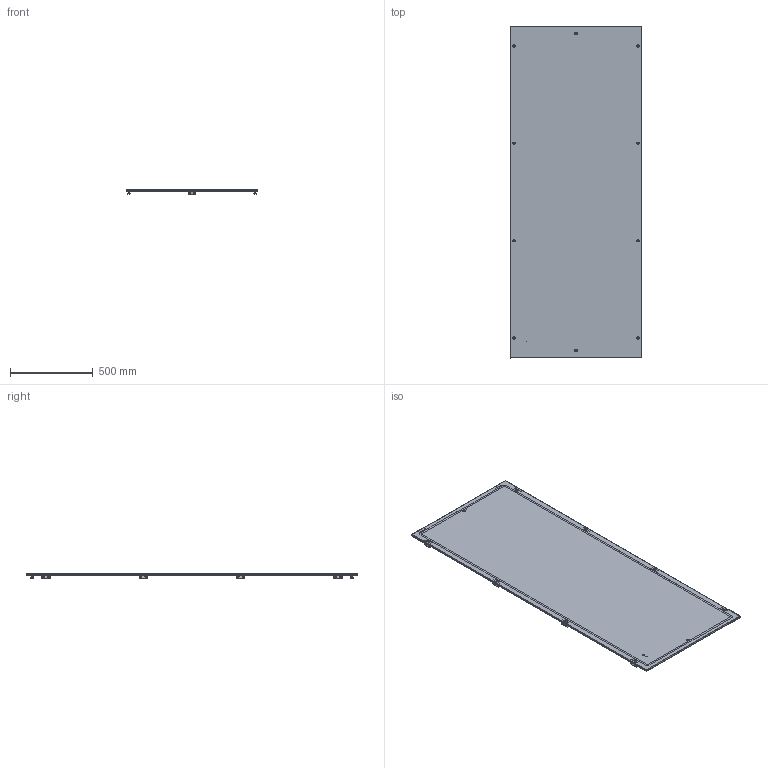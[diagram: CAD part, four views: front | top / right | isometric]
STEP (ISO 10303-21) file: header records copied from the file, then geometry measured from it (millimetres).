
FILE_DESCRIPTION (( 'STEP AP214' ), '1' );
FILE_NAME ('YKM40D-FO-FP-200-080-54 Ïàíåëü çàäíÿÿ 2000õ800 ìì IP54.STEP', '2025-08-21T13:04:08', ( '' ), ( '' ), 'SwSTEP 2.0', 'SolidWorks 2023', '' );
FILE_SCHEMA (( 'AUTOMOTIVE_DESIGN' ));
Length unit declared in the file: millimetre
Products named in the file (1): YKM40D-FO-FP-200-080-54 Панель задняя 2000х800 мм IP54
Bounding box: 795 x 2000 x 35.85 mm (x, y, z)
Volume: 2597084.6 mm3; surface area: 3473949.8 mm2
Topology: 1 solids, 2 shells, 1673 faces, 4494 edges, 2894 vertices
Faces by surface type: plane 831, cylinder 570, cone 240, torus 16, bspline 16
Entity records: 52956 total; most frequent: CARTESIAN_POINT 9903, DIRECTION 9200, ORIENTED_EDGE 8988, EDGE_CURVE 4494, AXIS2_PLACEMENT_3D 3176, VERTEX_POINT 2894, VECTOR 2848, LINE 2848
